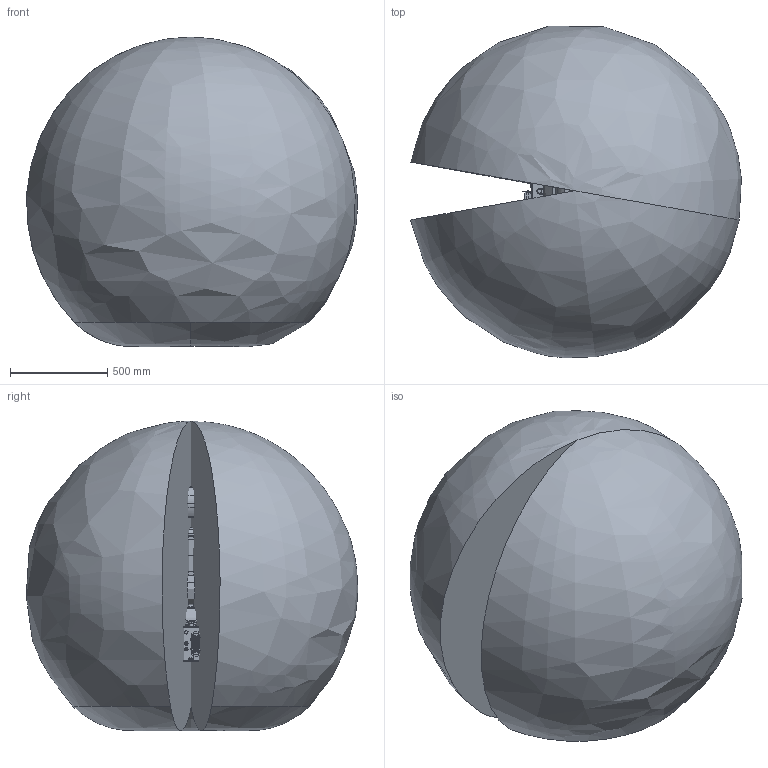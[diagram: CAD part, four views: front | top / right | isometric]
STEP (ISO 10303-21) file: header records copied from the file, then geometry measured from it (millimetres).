
FILE_DESCRIPTION (( 'STEP AP214' ), '1' );
FILE_NAME ('ER10-900 机器人数模V1.3.STEP', '2023-08-09T02:52:33', ( '' ), ( '' ), 'SwSTEP 2.0', 'SolidWorks 2021', '' );
FILE_SCHEMA (( 'AUTOMOTIVE_DESIGN' ));
Length unit declared in the file: millimetre
Products named in the file (9): 复件 ER10-900大臂部分^ER10-900 机器人数模V1.3; 复件 运动范围^ER10-900 机器人数模V1.3; ER10-900 机器人数模V1.3; 复件 ER10-900手腕体连接体部分^ER10-900 机器人数模V1.3; 复件 ER10-900手腕体部分^ER10-900 机器人数模V1.3; 复件 ER10-900转座部分^ER10-900 机器人数模V1.3; 复件 ER10-900 小臂部分^ER10-900 机器人数模V1.3; 复件 ER10-900末端法兰^ER10-900 机器人数模V1.3; 复件 ER10-900底座部分^ER10-900 机器人数模V1.3
Assembly tree (8 placements, depth 2):
  ER10-900 机器人数模V1.3
    复件 ER10-900底座部分^ER10-900 机器人数模V1.3
    复件 ER10-900大臂部分^ER10-900 机器人数模V1.3
    复件 ER10-900转座部分^ER10-900 机器人数模V1.3
    复件 ER10-900手腕体部分^ER10-900 机器人数模V1.3
    复件 ER10-900手腕体连接体部分^ER10-900 机器人数模V1.3
    复件 ER10-900 小臂部分^ER10-900 机器人数模V1.3
    复件 ER10-900末端法兰^ER10-900 机器人数模V1.3
    复件 运动范围^ER10-900 机器人数模V1.3
Bounding box: 1699.62 x 1703.81 x 1590.92 mm (x, y, z)
Volume: 2475760210.8 mm3; surface area: 12436648.1 mm2
Topology: 20 solids, 20 shells, 3690 faces, 9183 edges, 5654 vertices
Faces by surface type: bspline 1302, plane 973, cylinder 932, cone 483
Entity records: 218253 total; most frequent: CARTESIAN_POINT 122273, ORIENTED_EDGE 17998, DIRECTION 13695, EDGE_CURVE 8999, VERTEX_POINT 5654, AXIS2_PLACEMENT_3D 5610, EDGE_LOOP 4061, ADVANCED_FACE 3690
